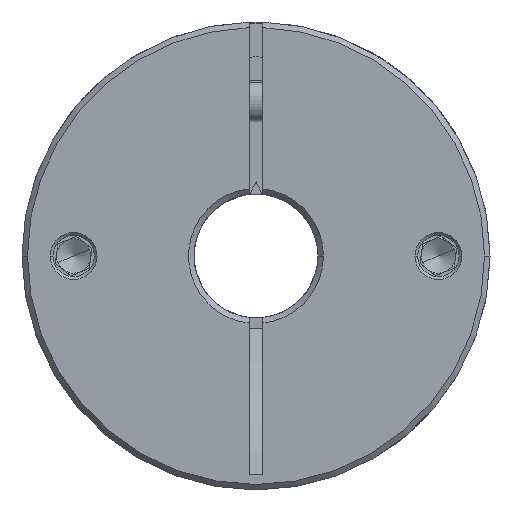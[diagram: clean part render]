
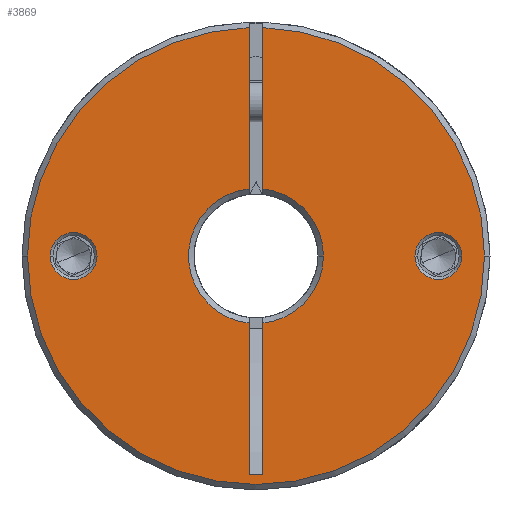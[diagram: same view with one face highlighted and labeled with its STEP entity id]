
A CAD part, front view. The second image highlights one B-rep face of the part: STEP entity #3869.
In plain terms, the highlighted planar face has unit normal (0, -1, 0).
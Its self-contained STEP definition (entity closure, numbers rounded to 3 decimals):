
#10 = ORIENTED_EDGE ( 'NONE', *, *, #12768, .T. ) ;
#89 = CARTESIAN_POINT ( 'NONE',  ( -1.735, -47.045, 68. ) ) ;
#161 = EDGE_CURVE ( 'NONE', #3956, #4865, #7131, .T. ) ;
#372 = ORIENTED_EDGE ( 'NONE', *, *, #7905, .T. ) ;
#463 = CARTESIAN_POINT ( 'NONE',  ( -25.835, -47.045, 68. ) ) ;
#675 = CIRCLE ( 'NONE', #2386, 9.8 ) ;
#724 = CIRCLE ( 'NONE', #12081, 3.4 ) ;
#894 = EDGE_CURVE ( 'NONE', #8944, #11849, #2627, .T. ) ;
#1030 = FACE_OUTER_BOUND ( 'NONE', #11797, .T. ) ;
#1061 = DIRECTION ( 'NONE',  ( 1., 0., 0. ) ) ;
#1328 = CARTESIAN_POINT ( 'NONE',  ( -29.235, -47.045, 68. ) ) ;
#1379 = CARTESIAN_POINT ( 'NONE',  ( -32.635, -47.045, 68. ) ) ;
#1453 = ORIENTED_EDGE ( 'NONE', *, *, #12510, .T. ) ;
#1502 = LINE ( 'NONE', #7372, #3496 ) ;
#1584 = DIRECTION ( 'NONE',  ( 1., 0., 0. ) ) ;
#1611 = DIRECTION ( 'NONE',  ( 1., 0., 0. ) ) ;
#1719 = ORIENTED_EDGE ( 'NONE', *, *, #8346, .T. ) ;
#1726 = CARTESIAN_POINT ( 'NONE',  ( -2.735, -47.045, 68. ) ) ;
#1830 = CARTESIAN_POINT ( 'NONE',  ( 30.465, -47.045, 68. ) ) ;
#2027 = CIRCLE ( 'NONE', #12900, 33.2 ) ;
#2075 = CARTESIAN_POINT ( 'NONE',  ( -2.735, -47.045, 68. ) ) ;
#2211 = CARTESIAN_POINT ( 'NONE',  ( 20.365, -47.045, 68. ) ) ;
#2354 = DIRECTION ( 'NONE',  ( 1., 0., 0. ) ) ;
#2386 = AXIS2_PLACEMENT_3D ( 'NONE', #5756, #11121, #1584 ) ;
#2390 = VECTOR ( 'NONE', #12672, 1000. ) ;
#2454 = AXIS2_PLACEMENT_3D ( 'NONE', #2787, #11274, #3842 ) ;
#2521 = CARTESIAN_POINT ( 'NONE',  ( -1.735, -47.045, 58.251 ) ) ;
#2536 = CARTESIAN_POINT ( 'NONE',  ( 23.765, -47.045, 68. ) ) ;
#2607 = VERTEX_POINT ( 'NONE', #9189 ) ;
#2627 = CIRCLE ( 'NONE', #7067, 33.2 ) ;
#2694 = ORIENTED_EDGE ( 'NONE', *, *, #6867, .T. ) ;
#2787 = CARTESIAN_POINT ( 'NONE',  ( -2.735, -47.045, 68. ) ) ;
#2915 = CARTESIAN_POINT ( 'NONE',  ( 23.765, -47.045, 68. ) ) ;
#3376 = CARTESIAN_POINT ( 'NONE',  ( 7.065, -47.045, 68. ) ) ;
#3425 = VERTEX_POINT ( 'NONE', #463 ) ;
#3496 = VECTOR ( 'NONE', #10306, 1000. ) ;
#3523 = VERTEX_POINT ( 'NONE', #4975 ) ;
#3552 = DIRECTION ( 'NONE',  ( 0., 1., 0. ) ) ;
#3637 = EDGE_CURVE ( 'NONE', #7856, #8944, #11369, .T. ) ;
#3646 = CARTESIAN_POINT ( 'NONE',  ( -1.735, -47.045, 101.185 ) ) ;
#3713 = VECTOR ( 'NONE', #4465, 1000. ) ;
#3842 = DIRECTION ( 'NONE',  ( 1., 0., 0. ) ) ;
#3869 = ADVANCED_FACE ( 'NONE', ( #6605, #5605, #1030 ), #7311, .T. ) ;
#3938 = CIRCLE ( 'NONE', #3969, 3.4 ) ;
#3956 = VERTEX_POINT ( 'NONE', #2211 ) ;
#3961 = DIRECTION ( 'NONE',  ( 1., 0., 0. ) ) ;
#3969 = AXIS2_PLACEMENT_3D ( 'NONE', #2536, #9802, #2354 ) ;
#4042 = ORIENTED_EDGE ( 'NONE', *, *, #894, .T. ) ;
#4045 = ORIENTED_EDGE ( 'NONE', *, *, #7120, .F. ) ;
#4058 = EDGE_CURVE ( 'NONE', #4865, #3956, #3938, .T. ) ;
#4065 = AXIS2_PLACEMENT_3D ( 'NONE', #1726, #13299, #11098 ) ;
#4191 = EDGE_CURVE ( 'NONE', #3523, #5153, #675, .T. ) ;
#4465 = DIRECTION ( 'NONE',  ( 0., 0., -1. ) ) ;
#4660 = VECTOR ( 'NONE', #6162, 1000. ) ;
#4732 = VERTEX_POINT ( 'NONE', #12750 ) ;
#4865 = VERTEX_POINT ( 'NONE', #12842 ) ;
#4975 = CARTESIAN_POINT ( 'NONE',  ( -3.735, -47.045, 58.251 ) ) ;
#5153 = VERTEX_POINT ( 'NONE', #9203 ) ;
#5259 = ORIENTED_EDGE ( 'NONE', *, *, #4058, .T. ) ;
#5359 = DIRECTION ( 'NONE',  ( 1., 0., 0. ) ) ;
#5372 = DIRECTION ( 'NONE',  ( 1., 0., 0. ) ) ;
#5515 = CIRCLE ( 'NONE', #9299, 9.8 ) ;
#5605 = FACE_BOUND ( 'NONE', #12447, .T. ) ;
#5756 = CARTESIAN_POINT ( 'NONE',  ( -2.735, -47.045, 68. ) ) ;
#5983 = ORIENTED_EDGE ( 'NONE', *, *, #3637, .T. ) ;
#6162 = DIRECTION ( 'NONE',  ( 0., 0., -1. ) ) ;
#6341 = DIRECTION ( 'NONE',  ( 0., -1., 0. ) ) ;
#6353 = CIRCLE ( 'NONE', #10529, 3.4 ) ;
#6474 = DIRECTION ( 'NONE',  ( 0., 1., 0. ) ) ;
#6605 = FACE_BOUND ( 'NONE', #13510, .T. ) ;
#6623 = DIRECTION ( 'NONE',  ( 1., 0., 0. ) ) ;
#6867 = EDGE_CURVE ( 'NONE', #11849, #10584, #13581, .T. ) ;
#7033 = DIRECTION ( 'NONE',  ( 0., 0., -1. ) ) ;
#7055 = AXIS2_PLACEMENT_3D ( 'NONE', #2915, #12373, #3961 ) ;
#7067 = AXIS2_PLACEMENT_3D ( 'NONE', #7934, #11974, #1611 ) ;
#7120 = EDGE_CURVE ( 'NONE', #3523, #4732, #7346, .T. ) ;
#7131 = CIRCLE ( 'NONE', #7055, 3.4 ) ;
#7311 = PLANE ( 'NONE',  #10124 ) ;
#7346 = LINE ( 'NONE', #10769, #3713 ) ;
#7372 = CARTESIAN_POINT ( 'NONE',  ( -3.735, -47.045, 36.279 ) ) ;
#7544 = DIRECTION ( 'NONE',  ( 1., 0., 0. ) ) ;
#7553 = CARTESIAN_POINT ( 'NONE',  ( -35.935, -47.045, 68. ) ) ;
#7801 = LINE ( 'NONE', #12319, #8784 ) ;
#7856 = VERTEX_POINT ( 'NONE', #7553 ) ;
#7905 = EDGE_CURVE ( 'NONE', #13314, #7856, #2027, .T. ) ;
#7934 = CARTESIAN_POINT ( 'NONE',  ( -2.735, -47.045, 68. ) ) ;
#8346 = EDGE_CURVE ( 'NONE', #10991, #11070, #5515, .T. ) ;
#8631 = LINE ( 'NONE', #12429, #4660 ) ;
#8784 = VECTOR ( 'NONE', #7033, 1000. ) ;
#8944 = VERTEX_POINT ( 'NONE', #1830 ) ;
#9189 = CARTESIAN_POINT ( 'NONE',  ( -1.735, -47.045, 36.279 ) ) ;
#9203 = CARTESIAN_POINT ( 'NONE',  ( -3.735, -47.045, 77.749 ) ) ;
#9299 = AXIS2_PLACEMENT_3D ( 'NONE', #9306, #12555, #1061 ) ;
#9306 = CARTESIAN_POINT ( 'NONE',  ( -2.735, -47.045, 68. ) ) ;
#9411 = CARTESIAN_POINT ( 'NONE',  ( -2.735, -47.045, 68. ) ) ;
#9555 = ORIENTED_EDGE ( 'NONE', *, *, #161, .T. ) ;
#9802 = DIRECTION ( 'NONE',  ( 0., 1., 0. ) ) ;
#9955 = EDGE_CURVE ( 'NONE', #2607, #4732, #1502, .T. ) ;
#10051 = ORIENTED_EDGE ( 'NONE', *, *, #4191, .T. ) ;
#10124 = AXIS2_PLACEMENT_3D ( 'NONE', #2075, #6341, #5359 ) ;
#10306 = DIRECTION ( 'NONE',  ( -1., 0., 0. ) ) ;
#10529 = AXIS2_PLACEMENT_3D ( 'NONE', #1328, #3552, #6623 ) ;
#10584 = VERTEX_POINT ( 'NONE', #13333 ) ;
#10605 = DIRECTION ( 'NONE',  ( 0., -1., 0. ) ) ;
#10744 = ORIENTED_EDGE ( 'NONE', *, *, #9955, .T. ) ;
#10769 = CARTESIAN_POINT ( 'NONE',  ( -3.735, -47.045, 68. ) ) ;
#10991 = VERTEX_POINT ( 'NONE', #3376 ) ;
#11070 = VERTEX_POINT ( 'NONE', #2521 ) ;
#11098 = DIRECTION ( 'NONE',  ( 1., 0., 0. ) ) ;
#11121 = DIRECTION ( 'NONE',  ( 0., 1., 0. ) ) ;
#11274 = DIRECTION ( 'NONE',  ( 0., -1., 0. ) ) ;
#11284 = EDGE_CURVE ( 'NONE', #3425, #13419, #6353, .T. ) ;
#11369 = CIRCLE ( 'NONE', #2454, 33.2 ) ;
#11679 = CARTESIAN_POINT ( 'NONE',  ( -29.235, -47.045, 68. ) ) ;
#11797 = EDGE_LOOP ( 'NONE', ( #12841, #372, #5983, #4042, #2694, #11912, #1719, #1453, #10744, #4045, #10051 ) ) ;
#11849 = VERTEX_POINT ( 'NONE', #3646 ) ;
#11912 = ORIENTED_EDGE ( 'NONE', *, *, #12439, .T. ) ;
#11932 = CARTESIAN_POINT ( 'NONE',  ( -3.735, -47.045, 101.185 ) ) ;
#11974 = DIRECTION ( 'NONE',  ( 0., -1., 0. ) ) ;
#12043 = CIRCLE ( 'NONE', #4065, 9.8 ) ;
#12081 = AXIS2_PLACEMENT_3D ( 'NONE', #11679, #6474, #7544 ) ;
#12319 = CARTESIAN_POINT ( 'NONE',  ( -3.735, -47.045, 68. ) ) ;
#12373 = DIRECTION ( 'NONE',  ( 0., 1., 0. ) ) ;
#12429 = CARTESIAN_POINT ( 'NONE',  ( -1.735, -47.045, 68. ) ) ;
#12439 = EDGE_CURVE ( 'NONE', #10584, #10991, #12043, .T. ) ;
#12447 = EDGE_LOOP ( 'NONE', ( #12772, #10 ) ) ;
#12510 = EDGE_CURVE ( 'NONE', #11070, #2607, #8631, .T. ) ;
#12555 = DIRECTION ( 'NONE',  ( 0., 1., 0. ) ) ;
#12672 = DIRECTION ( 'NONE',  ( 0., 0., -1. ) ) ;
#12750 = CARTESIAN_POINT ( 'NONE',  ( -3.735, -47.045, 36.279 ) ) ;
#12768 = EDGE_CURVE ( 'NONE', #13419, #3425, #724, .T. ) ;
#12772 = ORIENTED_EDGE ( 'NONE', *, *, #11284, .T. ) ;
#12841 = ORIENTED_EDGE ( 'NONE', *, *, #12902, .F. ) ;
#12842 = CARTESIAN_POINT ( 'NONE',  ( 27.165, -47.045, 68. ) ) ;
#12900 = AXIS2_PLACEMENT_3D ( 'NONE', #9411, #10605, #5372 ) ;
#12902 = EDGE_CURVE ( 'NONE', #13314, #5153, #7801, .T. ) ;
#13299 = DIRECTION ( 'NONE',  ( 0., 1., 0. ) ) ;
#13314 = VERTEX_POINT ( 'NONE', #11932 ) ;
#13333 = CARTESIAN_POINT ( 'NONE',  ( -1.735, -47.045, 77.749 ) ) ;
#13419 = VERTEX_POINT ( 'NONE', #1379 ) ;
#13510 = EDGE_LOOP ( 'NONE', ( #5259, #9555 ) ) ;
#13581 = LINE ( 'NONE', #89, #2390 ) ;
